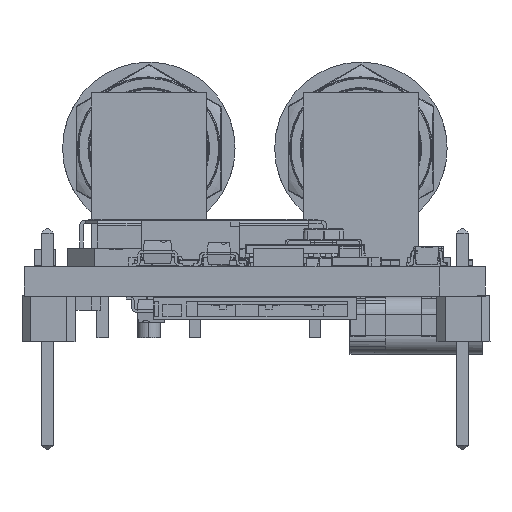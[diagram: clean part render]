
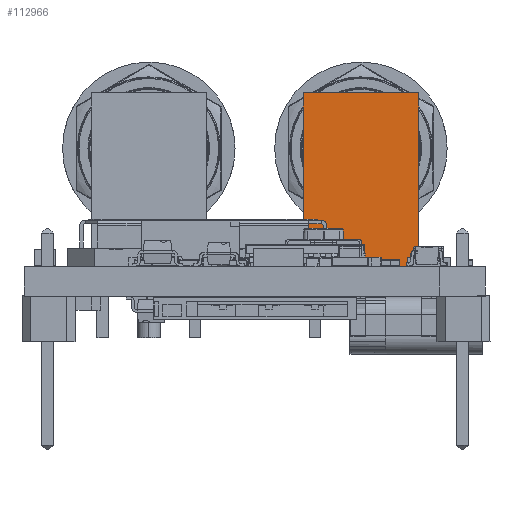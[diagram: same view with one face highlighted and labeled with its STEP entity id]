
A CAD part, front view. The second image highlights one B-rep face of the part: STEP entity #112966.
In plain terms, the highlighted planar face has unit normal (0, -1, 0) as drawn and (-1, 0, 0) by its records, which use the part's own axes.
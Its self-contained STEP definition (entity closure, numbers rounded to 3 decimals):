
#112873 = VERTEX_POINT('',#112874);
#112874 = CARTESIAN_POINT('',(-3.175,-3.175,0.));
#112880 = EDGE_CURVE('',#112873,#112881,#112883,.T.);
#112881 = VERTEX_POINT('',#112882);
#112882 = CARTESIAN_POINT('',(-3.175,3.175,0.));
#112883 = LINE('',#112884,#112885);
#112884 = CARTESIAN_POINT('',(-3.175,-3.175,0.));
#112885 = VECTOR('',#112886,1.);
#112886 = DIRECTION('',(0.,1.,0.));
#112966 = ADVANCED_FACE('',(#112967),#112992,.T.);
#112967 = FACE_BOUND('',#112968,.T.);
#112968 = EDGE_LOOP('',(#112969,#112970,#112978,#112986));
#112969 = ORIENTED_EDGE('',*,*,#112880,.F.);
#112970 = ORIENTED_EDGE('',*,*,#112971,.F.);
#112971 = EDGE_CURVE('',#112972,#112873,#112974,.T.);
#112972 = VERTEX_POINT('',#112973);
#112973 = CARTESIAN_POINT('',(-3.175,-3.175,9.55));
#112974 = LINE('',#112975,#112976);
#112975 = CARTESIAN_POINT('',(-3.175,-3.175,9.55));
#112976 = VECTOR('',#112977,1.);
#112977 = DIRECTION('',(0.,0.,-1.));
#112978 = ORIENTED_EDGE('',*,*,#112979,.T.);
#112979 = EDGE_CURVE('',#112972,#112980,#112982,.T.);
#112980 = VERTEX_POINT('',#112981);
#112981 = CARTESIAN_POINT('',(-3.175,3.175,9.55));
#112982 = LINE('',#112983,#112984);
#112983 = CARTESIAN_POINT('',(-3.175,-3.175,9.55));
#112984 = VECTOR('',#112985,1.);
#112985 = DIRECTION('',(0.,1.,0.));
#112986 = ORIENTED_EDGE('',*,*,#112987,.T.);
#112987 = EDGE_CURVE('',#112980,#112881,#112988,.T.);
#112988 = LINE('',#112989,#112990);
#112989 = CARTESIAN_POINT('',(-3.175,3.175,9.55));
#112990 = VECTOR('',#112991,1.);
#112991 = DIRECTION('',(0.,0.,-1.));
#112992 = PLANE('',#112993);
#112993 = AXIS2_PLACEMENT_3D('',#112994,#112995,#112996);
#112994 = CARTESIAN_POINT('',(-3.175,-3.175,9.55));
#112995 = DIRECTION('',(-1.,0.,0.));
#112996 = DIRECTION('',(0.,0.,1.));
